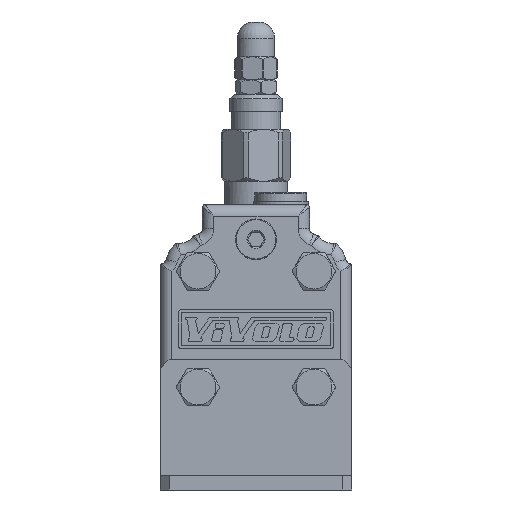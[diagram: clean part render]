
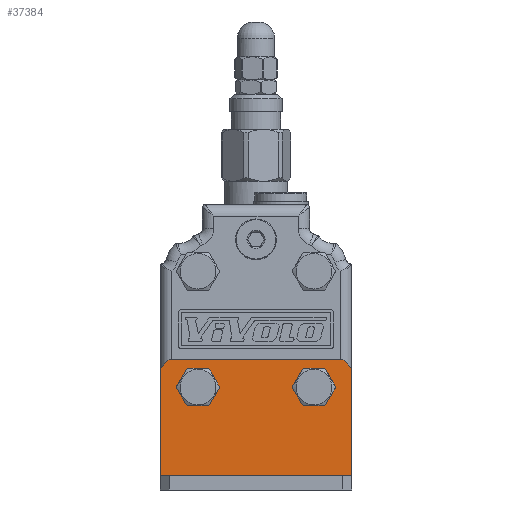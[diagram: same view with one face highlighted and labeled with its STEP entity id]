
A CAD part, front view. The second image highlights one B-rep face of the part: STEP entity #37384.
In plain terms, the highlighted planar face has unit normal (0, -1, 0).
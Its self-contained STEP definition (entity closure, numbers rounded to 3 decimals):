
#1116=LINE('',#58240,#3215);
#1132=LINE('',#58280,#3231);
#1133=LINE('',#58282,#3232);
#1135=LINE('',#58286,#3234);
#1137=LINE('',#58290,#3236);
#1138=LINE('',#58296,#3237);
#3215=VECTOR('',#44715,1000.);
#3231=VECTOR('',#44743,1000.);
#3232=VECTOR('',#44746,1000.);
#3234=VECTOR('',#44750,1000.);
#3236=VECTOR('',#44754,1000.);
#3237=VECTOR('',#44761,1000.);
#8781=ORIENTED_EDGE('',*,*,#15274,.T.);
#8782=ORIENTED_EDGE('',*,*,#15275,.T.);
#8783=ORIENTED_EDGE('',*,*,#15268,.F.);
#8784=ORIENTED_EDGE('',*,*,#15276,.T.);
#8785=ORIENTED_EDGE('',*,*,#15248,.F.);
#8786=ORIENTED_EDGE('',*,*,#15273,.F.);
#8787=ORIENTED_EDGE('',*,*,#15271,.F.);
#8788=ORIENTED_EDGE('',*,*,#15269,.F.);
#15248=EDGE_CURVE('',#18691,#18692,#1116,.T.);
#15268=EDGE_CURVE('',#18708,#18706,#1132,.T.);
#15269=EDGE_CURVE('',#18706,#18709,#1133,.T.);
#15271=EDGE_CURVE('',#18709,#18710,#1135,.T.);
#15273=EDGE_CURVE('',#18710,#18691,#1137,.T.);
#15274=EDGE_CURVE('',#18711,#18711,#20773,.T.);
#15275=EDGE_CURVE('',#18712,#18712,#20774,.T.);
#15276=EDGE_CURVE('',#18708,#18692,#1138,.T.);
#18691=VERTEX_POINT('',#58241);
#18692=VERTEX_POINT('',#58242);
#18706=VERTEX_POINT('',#58275);
#18708=VERTEX_POINT('',#58279);
#18709=VERTEX_POINT('',#58283);
#18710=VERTEX_POINT('',#58287);
#18711=VERTEX_POINT('',#58293);
#18712=VERTEX_POINT('',#58295);
#20773=CIRCLE('',#39499,6.);
#20774=CIRCLE('',#39500,6.);
#22517=EDGE_LOOP('',(#8781));
#22518=EDGE_LOOP('',(#8782));
#22519=EDGE_LOOP('',(#8783,#8784,#8785,#8786,#8787,#8788));
#24262=FACE_BOUND('',#22517,.T.);
#24263=FACE_BOUND('',#22518,.T.);
#24264=FACE_BOUND('',#22519,.T.);
#25585=PLANE('',#39498);
#37384=ADVANCED_FACE('',(#24262,#24263,#24264),#25585,.F.);
#39498=AXIS2_PLACEMENT_3D('',#58291,#44755,#44756);
#39499=AXIS2_PLACEMENT_3D('',#58292,#44757,#44758);
#39500=AXIS2_PLACEMENT_3D('',#58294,#44759,#44760);
#44715=DIRECTION('',(0.,0.,-1.));
#44743=DIRECTION('',(0.,0.,1.));
#44746=DIRECTION('',(0.707,0.,0.707));
#44750=DIRECTION('',(1.,0.,0.));
#44754=DIRECTION('',(0.707,0.,-0.707));
#44755=DIRECTION('',(0.,1.,0.));
#44756=DIRECTION('',(0.,0.,1.));
#44757=DIRECTION('',(0.,1.,0.));
#44758=DIRECTION('',(1.,0.,0.));
#44759=DIRECTION('',(0.,1.,0.));
#44760=DIRECTION('',(1.,0.,0.));
#44761=DIRECTION('',(1.,0.,0.));
#58240=CARTESIAN_POINT('',(33.,-5.,-13.5));
#58241=CARTESIAN_POINT('',(33.,-5.,-13.5));
#58242=CARTESIAN_POINT('',(33.,-5.,-50.5));
#58275=CARTESIAN_POINT('',(-33.,-5.,-13.5));
#58279=CARTESIAN_POINT('',(-33.,-5.,-50.5));
#58280=CARTESIAN_POINT('',(-33.,-5.,-55.5));
#58282=CARTESIAN_POINT('',(-33.,-5.,-13.5));
#58283=CARTESIAN_POINT('',(-30.,-5.,-10.5));
#58286=CARTESIAN_POINT('',(30.,-5.,-10.5));
#58287=CARTESIAN_POINT('',(30.,-5.,-10.5));
#58290=CARTESIAN_POINT('',(30.,-5.,-10.5));
#58291=CARTESIAN_POINT('',(33.,-5.,-55.5));
#58292=CARTESIAN_POINT('',(-20.,-5.,-20.));
#58293=CARTESIAN_POINT('',(-14.,-5.,-20.));
#58294=CARTESIAN_POINT('',(20.,-5.,-20.));
#58295=CARTESIAN_POINT('',(26.,-5.,-20.));
#58296=CARTESIAN_POINT('',(33.,-5.,-50.5));
